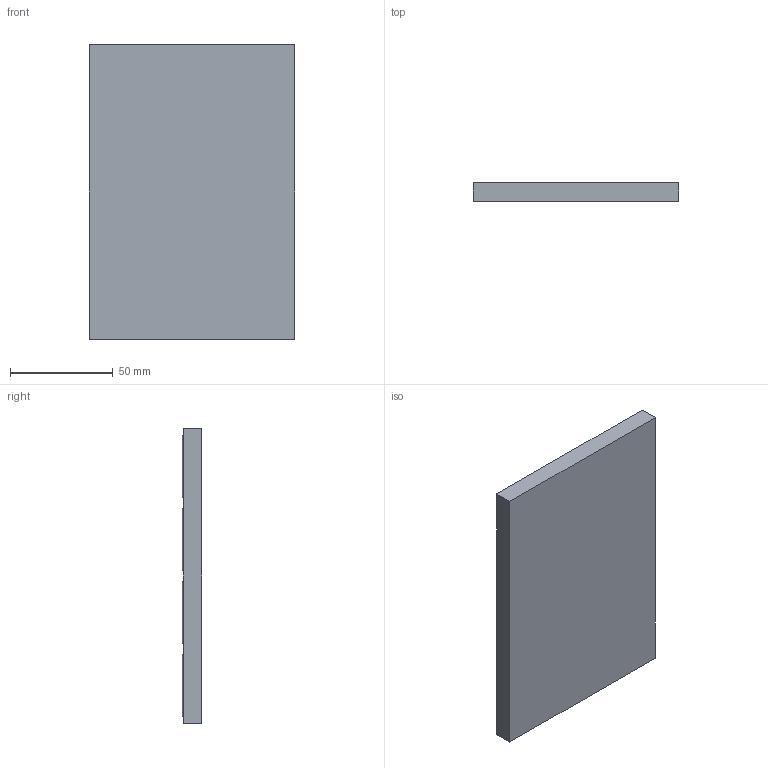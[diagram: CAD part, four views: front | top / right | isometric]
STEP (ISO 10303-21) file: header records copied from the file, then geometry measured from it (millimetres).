
FILE_DESCRIPTION( (''), '2;1');
FILE_NAME ('FR-150-10.0.stp','2024-12-17T17:02:05',(''),(''),'spGate 20.6.2 (****-****-****-****)','','');
FILE_SCHEMA (('AUTOMOTIVE_DESIGN'));
Length unit declared in the file: millimetre
Products named in the file (50): NewModel; TEMP_X_T-prt0; TEMP_X_T-prt1; TEMP_X_T-prt2; TEMP_X_T-prt3; TEMP_X_T-prt4; TEMP_X_T-prt5; TEMP_X_T-prt6; TEMP_X_T-prt7; TEMP_X_T-prt8; TEMP_X_T-prt9; TEMP_X_T-prt10; TEMP_X_T-prt11; TEMP_X_T-prt12; TEMP_X_T-prt13; TEMP_X_T-prt14; TEMP_X_T-prt15; TEMP_X_T-prt16; TEMP_X_T-prt17; TEMP_X_T-prt18; TEMP_X_T-prt19; TEMP_X_T-prt20; TEMP_X_T-prt21; TEMP_X_T-prt22; TEMP_X_T-prt23; TEMP_X_T-prt24; TEMP_X_T-prt25; TEMP_X_T-prt26; TEMP_X_T-prt27; TEMP_X_T-prt28; TEMP_X_T-prt29; TEMP_X_T-prt30; TEMP_X_T-prt31; TEMP_X_T-prt32; TEMP_X_T-prt33; TEMP_X_T-prt34; TEMP_X_T-prt35; TEMP_X_T-prt36; TEMP_X_T-prt37; TEMP_X_T-prt38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
Assembly tree (49 placements, depth 2):
  NewModel
    TEMP_X_T-prt0
    TEMP_X_T-prt1
    TEMP_X_T-prt2
    TEMP_X_T-prt3
    TEMP_X_T-prt4
    TEMP_X_T-prt5
    TEMP_X_T-prt6
    TEMP_X_T-prt7
    TEMP_X_T-prt8
    TEMP_X_T-prt9
    TEMP_X_T-prt10
    TEMP_X_T-prt11
    TEMP_X_T-prt12
    TEMP_X_T-prt13
    TEMP_X_T-prt14
    TEMP_X_T-prt15
    TEMP_X_T-prt16
    TEMP_X_T-prt17
    TEMP_X_T-prt18
    TEMP_X_T-prt19
    TEMP_X_T-prt20
    TEMP_X_T-prt21
    TEMP_X_T-prt22
    TEMP_X_T-prt23
    TEMP_X_T-prt24
    TEMP_X_T-prt25
    TEMP_X_T-prt26
    TEMP_X_T-prt27
    TEMP_X_T-prt28
    TEMP_X_T-prt29
    TEMP_X_T-prt30
    TEMP_X_T-prt31
    TEMP_X_T-prt32
    TEMP_X_T-prt33
    TEMP_X_T-prt34
    TEMP_X_T-prt35
    TEMP_X_T-prt36
    TEMP_X_T-prt37
    TEMP_X_T-prt38
    TEMP_X_T-prt39
    TEMP_X_T-prt40
    TEMP_X_T-prt41
    TEMP_X_T-prt42
    TEMP_X_T-prt43
    TEMP_X_T-prt44
    TEMP_X_T-prt45
    TEMP_X_T-prt46
    TEMP_X_T-prt47
    TEMP_X_T-prt48
Bounding box: 99.8 x 9.3 x 143 mm (x, y, z)
Surface area: 64565 mm2
Topology: 49 solids, 49 shells, 198 faces, 300 edges, 200 vertices
Faces by surface type: plane 102, cylinder 96
Entity records: 8856 total; most frequent: DIRECTION 992, CARTESIAN_POINT 894, ORIENTED_EDGE 600, COLOUR_RGB 547, PRESENTATION_STYLE_ASSIGNMENT 547, STYLED_ITEM 547, AXIS2_PLACEMENT_3D 490, EDGE_CURVE 300
